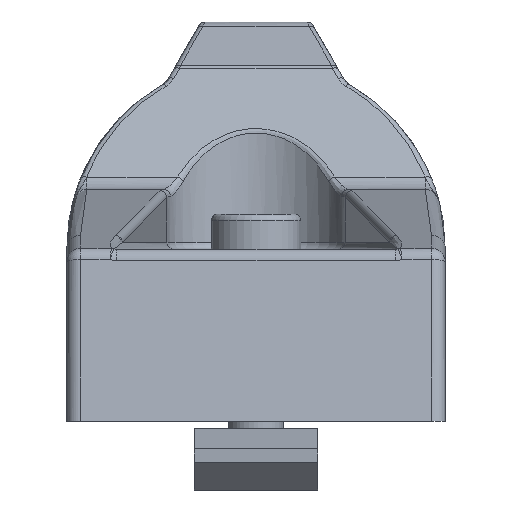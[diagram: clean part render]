
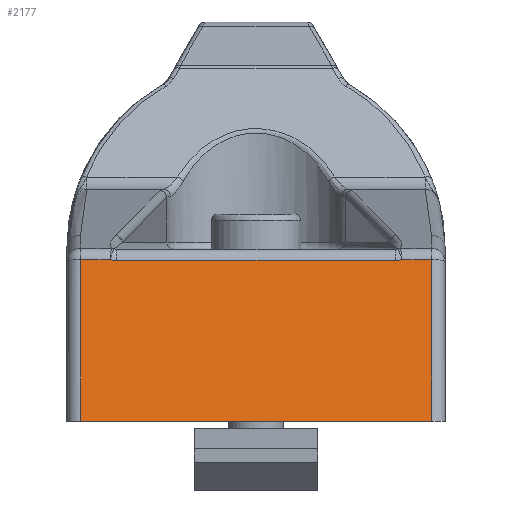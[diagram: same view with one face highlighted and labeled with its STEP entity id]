
A CAD part, front view. The second image highlights one B-rep face of the part: STEP entity #2177.
In plain terms, the highlighted planar face has unit normal (0, -0.985, 0.174).
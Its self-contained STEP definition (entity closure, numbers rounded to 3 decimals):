
#198 = CARTESIAN_POINT ( 'NONE',  ( -92.5, 4.117, -1.653 ) ) ;
#201 = DIRECTION ( 'NONE',  ( -1., 0., 0. ) ) ;
#226 = VERTEX_POINT ( 'NONE', #5890 ) ;
#329 = VERTEX_POINT ( 'NONE', #5854 ) ;
#331 = VERTEX_POINT ( 'NONE', #5757 ) ;
#827 = VERTEX_POINT ( 'NONE', #5759 ) ;
#847 = VERTEX_POINT ( 'NONE', #5956 ) ;
#855 = VERTEX_POINT ( 'NONE', #5852 ) ;
#864 = VERTEX_POINT ( 'NONE', #5870 ) ;
#1042 = VERTEX_POINT ( 'NONE', #5969 ) ;
#1233 = LINE ( 'NONE', #198, #1236 ) ;
#1236 = VECTOR ( 'NONE', #201, 1000. ) ;
#1295 = LINE ( 'NONE', #4356, #1297 ) ;
#1297 = VECTOR ( 'NONE', #4358, 1000. ) ;
#1300 = LINE ( 'NONE', #4364, #1302 ) ;
#1302 = VECTOR ( 'NONE', #4366, 1000. ) ;
#1319 = LINE ( 'NONE', #4398, #1324 ) ;
#1324 = VECTOR ( 'NONE', #4411, 1000. ) ;
#2177 = ADVANCED_FACE ( 'NONE', ( #6102 ), #5841, .F. ) ;
#2535 = CARTESIAN_POINT ( 'NONE',  ( -25.5, 0., -25. ) ) ;
#2536 = DIRECTION ( 'NONE',  ( 0., -0.174, -0.985 ) ) ;
#3101 = AXIS2_PLACEMENT_3D ( 'NONE', #5812, #5848, #5871 ) ;
#3536 = CARTESIAN_POINT ( 'NONE',  ( -20.573, 4.117, -1.653 ) ) ;
#3544 = CARTESIAN_POINT ( 'NONE',  ( -20.262, 4.117, -1.653 ) ) ;
#3546 = CARTESIAN_POINT ( 'NONE',  ( -20.879, 4.125, -1.605 ) ) ;
#3547 = CARTESIAN_POINT ( 'NONE',  ( -21.174, 4.142, -1.511 ) ) ;
#3754 =( BOUNDED_CURVE ( )  B_SPLINE_CURVE ( 3, ( #4360, #4357, #4362, #4363 ),
 .UNSPECIFIED., .F., .F. ) 
 B_SPLINE_CURVE_WITH_KNOTS ( ( 4, 4 ),
 ( 3.292, 3.601 ),
 .UNSPECIFIED. ) 
 CURVE ( )  GEOMETRIC_REPRESENTATION_ITEM ( )  RATIONAL_B_SPLINE_CURVE ( ( 1., 0.992, 0.992, 1. ) ) 
 REPRESENTATION_ITEM ( '' )  );
#3768 =( BOUNDED_CURVE ( )  B_SPLINE_CURVE ( 3, ( #3544, #3536, #3546, #3547 ),
 .UNSPECIFIED., .F., .F. ) 
 B_SPLINE_CURVE_WITH_KNOTS ( ( 4, 4 ),
 ( 5.824, 6.132 ),
 .UNSPECIFIED. ) 
 CURVE ( )  GEOMETRIC_REPRESENTATION_ITEM ( )  RATIONAL_B_SPLINE_CURVE ( ( 1., 0.992, 0.992, 1. ) ) 
 REPRESENTATION_ITEM ( '' )  );
#4070 = LINE ( 'NONE', #4423, #4075 ) ;
#4075 = VECTOR ( 'NONE', #4417, 1000. ) ;
#4254 = LINE ( 'NONE', #2535, #4261 ) ;
#4261 = VECTOR ( 'NONE', #2536, 1000. ) ;
#4356 = CARTESIAN_POINT ( 'NONE',  ( 25.5, 0., -25. ) ) ;
#4357 = CARTESIAN_POINT ( 'NONE',  ( 20.879, 4.125, -1.605 ) ) ;
#4358 = DIRECTION ( 'NONE',  ( 0., 0.174, 0.985 ) ) ;
#4360 = CARTESIAN_POINT ( 'NONE',  ( 21.174, 4.142, -1.511 ) ) ;
#4362 = CARTESIAN_POINT ( 'NONE',  ( 20.573, 4.117, -1.653 ) ) ;
#4363 = CARTESIAN_POINT ( 'NONE',  ( 20.262, 4.117, -1.653 ) ) ;
#4364 = CARTESIAN_POINT ( 'NONE',  ( -92.5, 4.142, -1.511 ) ) ;
#4366 = DIRECTION ( 'NONE',  ( -1., 0., 0. ) ) ;
#4398 = CARTESIAN_POINT ( 'NONE',  ( -92.5, 4.142, -1.511 ) ) ;
#4411 = DIRECTION ( 'NONE',  ( -1., 0., 0. ) ) ;
#4417 = DIRECTION ( 'NONE',  ( -1., 0., 0. ) ) ;
#4423 = CARTESIAN_POINT ( 'NONE',  ( -27.5, 0., -25. ) ) ;
#4921 = EDGE_CURVE ( 'NONE', #827, #847, #1233, .T. ) ;
#4996 = EDGE_CURVE ( 'NONE', #329, #331, #1295, .T. ) ;
#5000 = EDGE_CURVE ( 'NONE', #1042, #827, #3754, .T. ) ;
#5001 = EDGE_CURVE ( 'NONE', #331, #1042, #1300, .T. ) ;
#5022 = EDGE_CURVE ( 'NONE', #864, #855, #1319, .T. ) ;
#5033 = EDGE_CURVE ( 'NONE', #329, #226, #4070, .T. ) ;
#5132 = EDGE_CURVE ( 'NONE', #847, #864, #3768, .T. ) ;
#5757 = CARTESIAN_POINT ( 'NONE',  ( 25.5, 4.142, -1.511 ) ) ;
#5759 = CARTESIAN_POINT ( 'NONE',  ( 20.262, 4.117, -1.653 ) ) ;
#5812 = CARTESIAN_POINT ( 'NONE',  ( -92.5, 0., -25. ) ) ;
#5841 = PLANE ( 'NONE',  #3101 ) ;
#5848 = DIRECTION ( 'NONE',  ( 0., 0.985, -0.174 ) ) ;
#5852 = CARTESIAN_POINT ( 'NONE',  ( -25.5, 4.142, -1.511 ) ) ;
#5854 = CARTESIAN_POINT ( 'NONE',  ( 25.5, 0., -25. ) ) ;
#5870 = CARTESIAN_POINT ( 'NONE',  ( -21.174, 4.142, -1.511 ) ) ;
#5871 = DIRECTION ( 'NONE',  ( 0., 0.174, 0.985 ) ) ;
#5890 = CARTESIAN_POINT ( 'NONE',  ( -25.5, 0., -25. ) ) ;
#5956 = CARTESIAN_POINT ( 'NONE',  ( -20.262, 4.117, -1.653 ) ) ;
#5969 = CARTESIAN_POINT ( 'NONE',  ( 21.174, 4.142, -1.511 ) ) ;
#5990 = EDGE_CURVE ( 'NONE', #855, #226, #4254, .T. ) ;
#6102 = FACE_OUTER_BOUND ( 'NONE', #6453, .T. ) ;
#6158 = ORIENTED_EDGE ( 'NONE', *, *, #5990, .T. ) ;
#6159 = ORIENTED_EDGE ( 'NONE', *, *, #5022, .T. ) ;
#6160 = ORIENTED_EDGE ( 'NONE', *, *, #5132, .T. ) ;
#6161 = ORIENTED_EDGE ( 'NONE', *, *, #4921, .T. ) ;
#6162 = ORIENTED_EDGE ( 'NONE', *, *, #5000, .T. ) ;
#6163 = ORIENTED_EDGE ( 'NONE', *, *, #5001, .T. ) ;
#6164 = ORIENTED_EDGE ( 'NONE', *, *, #4996, .T. ) ;
#6165 = ORIENTED_EDGE ( 'NONE', *, *, #5033, .F. ) ;
#6453 = EDGE_LOOP ( 'NONE', ( #6165, #6164, #6163, #6162, #6161, #6160, #6159, #6158 ) ) ;
